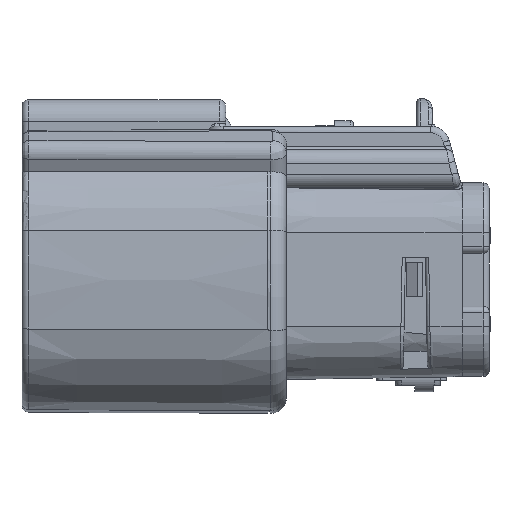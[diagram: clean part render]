
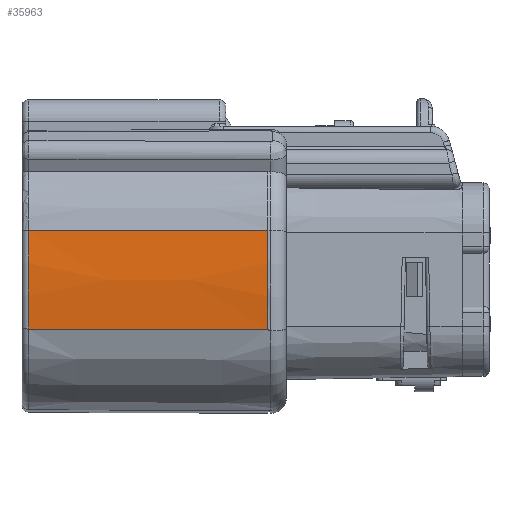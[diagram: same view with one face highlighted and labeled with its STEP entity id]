
A CAD part, left-side view. The second image highlights one B-rep face of the part: STEP entity #35963.
In plain terms, the highlighted conical face has half-angle 0.25 degrees and reference radius 33.292 mm.
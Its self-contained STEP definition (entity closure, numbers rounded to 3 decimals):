
#7944=CARTESIAN_POINT('',(119.66,24.297,-2.767));
#7945=DIRECTION('',(0.,1.,0.));
#7946=DIRECTION('',(-0.993,0.,-0.117));
#7947=AXIS2_PLACEMENT_3D('',#7944,#7945,#7946);
#8241=CARTESIAN_POINT('',(119.551,5.352,-2.767));
#8242=DIRECTION('',(0.,-1.,0.));
#8243=DIRECTION('',(-0.993,0.,0.118));
#8244=AXIS2_PLACEMENT_3D('',#8241,#8242,#8243);
#8261=CARTESIAN_POINT('',(86.556,5.352,-6.678));
#8739=DIRECTION('',(0.004,1.,0.001));
#8740=VECTOR('',#8739,18.945);
#8741=CARTESIAN_POINT('',(86.556,5.352,-6.678));
#8742=LINE('',#8741,#8740);
#8754=DIRECTION('',(0.004,1.,-0.001));
#8755=VECTOR('',#8754,18.945);
#8756=CARTESIAN_POINT('',(86.556,5.352,1.144));
#8757=LINE('',#8756,#8755);
#15015=CARTESIAN_POINT('',(86.556,5.352,1.144));
#15016=VERTEX_POINT('',#15015);
#15019=VERTEX_POINT('',#8261);
#16068=CARTESIAN_POINT('',(86.638,24.297,
-6.668));
#16069=VERTEX_POINT('',#16068);
#16070=CARTESIAN_POINT('',(86.638,24.297,1.134));
#16071=VERTEX_POINT('',#16070);
#35951=CARTESIAN_POINT('',(119.66,14.824,
-2.767));
#35952=DIRECTION('',(0.,-1.,0.));
#35953=DIRECTION('',(-0.992,0.,0.125));
#35954=AXIS2_PLACEMENT_3D('',#35951,#35952,#35953);
#35955=CONICAL_SURFACE('',#35954,33.292,0.25);
#35956=ORIENTED_EDGE('',*,*,#35945,.T.);
#35957=ORIENTED_EDGE('',*,*,#35108,.T.);
#35959=ORIENTED_EDGE('',*,*,#35958,.F.);
#35960=ORIENTED_EDGE('',*,*,#35427,.T.);
#35961=EDGE_LOOP('',(#35956,#35957,#35959,#35960));
#35962=FACE_OUTER_BOUND('',#35961,.F.);
#35963=ADVANCED_FACE('',(#35962),#35955,.T.);
#7948=CIRCLE('',#7947,33.251);
#8245=CIRCLE('',#8244,33.226);
#35108=EDGE_CURVE('',#16069,#16071,#7948,.T.);
#35427=EDGE_CURVE('',#15016,#15019,#8245,.T.);
#35945=EDGE_CURVE('',#15019,#16069,#8742,.T.);
#35958=EDGE_CURVE('',#15016,#16071,#8757,.T.);
